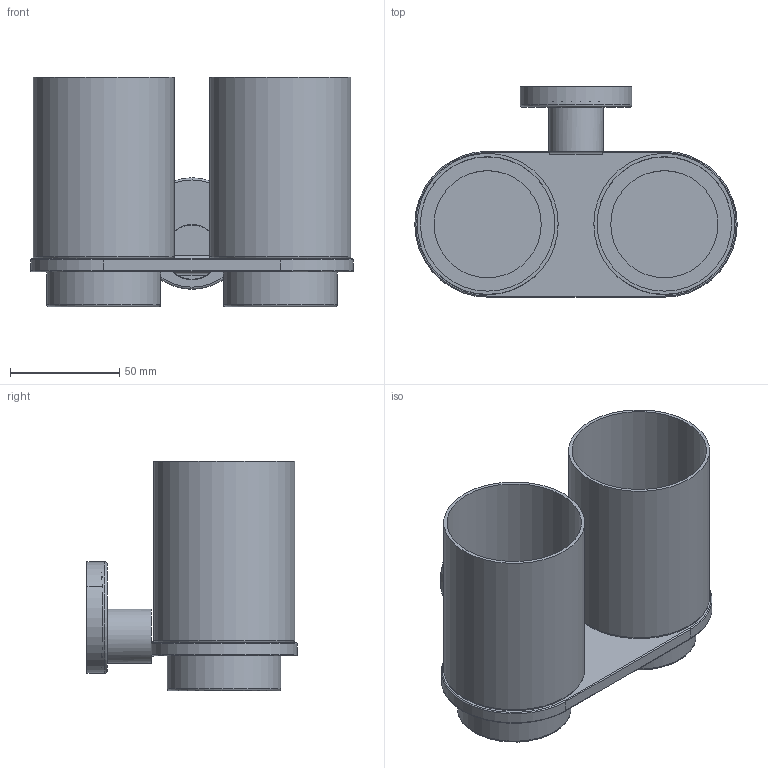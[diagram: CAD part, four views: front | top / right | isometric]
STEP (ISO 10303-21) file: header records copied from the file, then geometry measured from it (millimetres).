
FILE_DESCRIPTION(/* description */ (''),/* implementation_level */ '2;1');
FILE_NAME(/* name */ '4111156',/* time_stamp */ '2019-08-26T09:34:18+08:00',/* author */ (''),/* organization */ (''),/* preprocessor_version */ 'ST-DEVELOPER v9',/* originating_system */ 'UGS - NX 4.0',/* authorisation */ '');
FILE_SCHEMA (('CONFIG_CONTROL_DESIGN'));
Length unit declared in the file: millimetre
Products named in the file (1): w335DEEtk4o
Bounding box: 147.5 x 96.1 x 105 mm (x, y, z)
Volume: 111290.5 mm3; surface area: 118777.7 mm2
Topology: 5 solids, 5 shells, 127 faces, 293 edges, 188 vertices
Faces by surface type: plane 64, cylinder 49, torus 10, cone 4
Full cylindrical faces by diameter (mm): 6.3 x1, 24.8 x1, 25.3 x1, 49 x2, 50 x1, 51 x1, 52 x2, 54.7 x2, 61.5 x2, 64.5 x2
Entity records: 3680 total; most frequent: CARTESIAN_POINT 696, DIRECTION 626, ORIENTED_EDGE 542, EDGE_CURVE 271, AXIS2_PLACEMENT_3D 235, VERTEX_POINT 187, EDGE_LOOP 172, LINE 156
